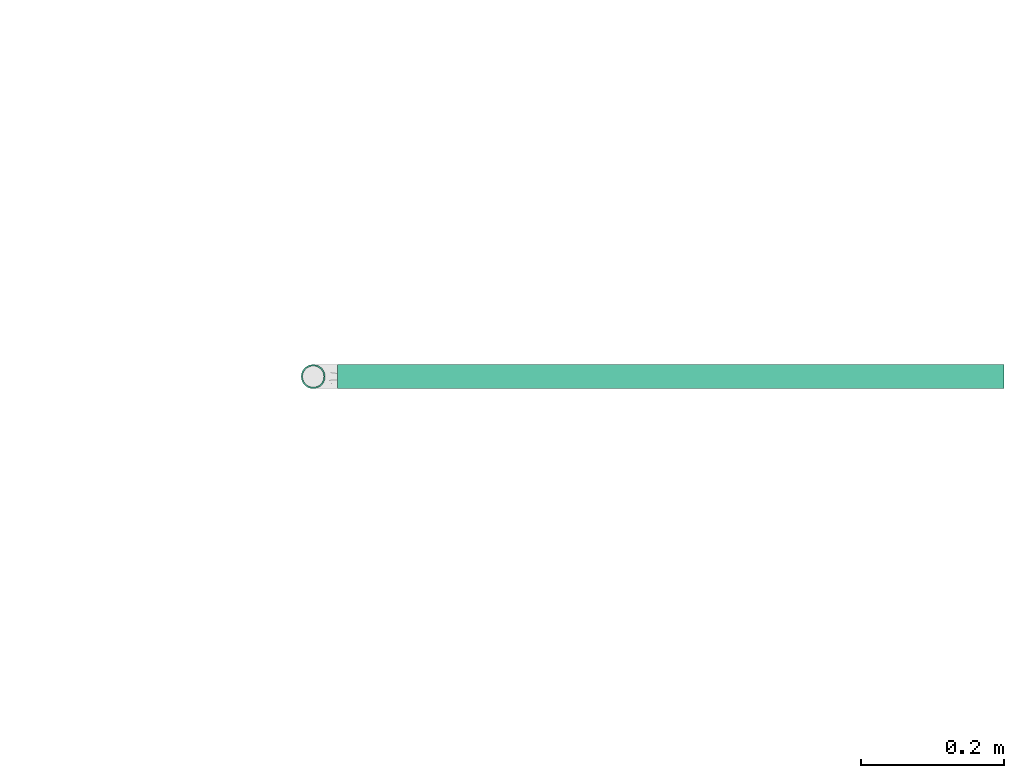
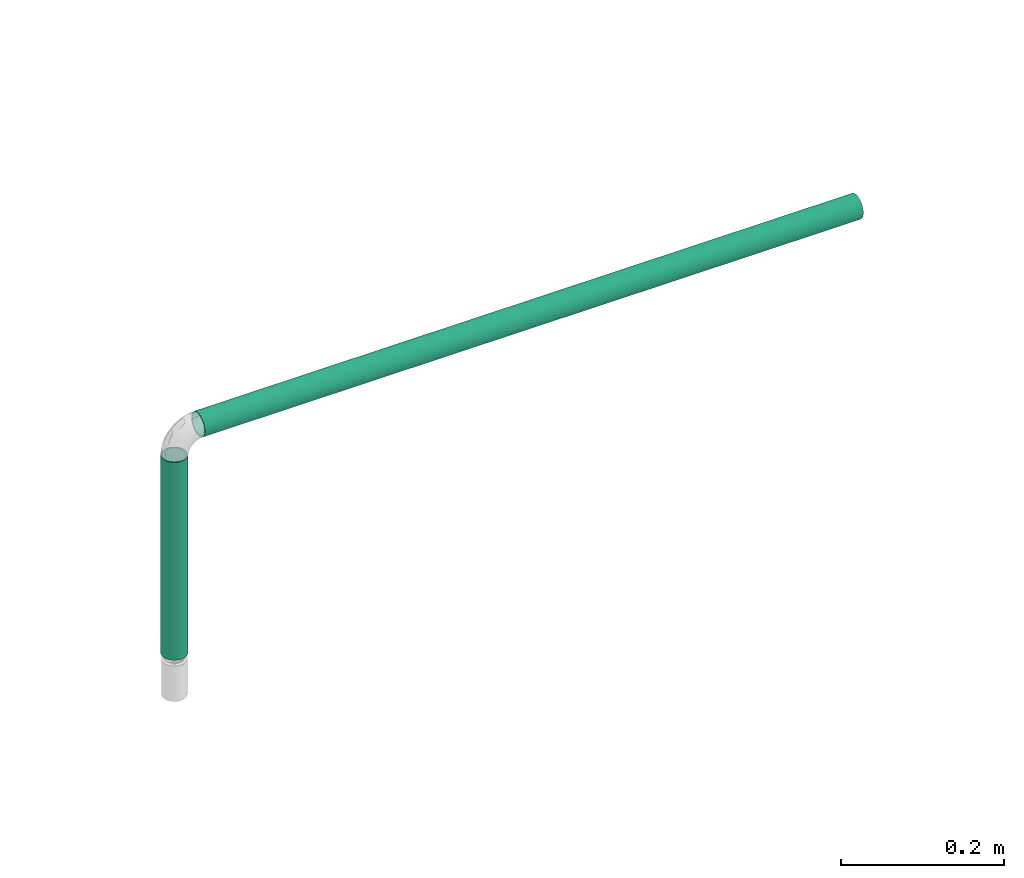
# One storey, part 34 of 95: 2 flow segments.
"""IFC2X3 building model written with IfcOpenShell, lengths in millimetres."""

from ifc_helpers import new_model, entity, si_unit, converted_unit, derived_unit, direction, frame, origin_with_axes, origin_2d_with_axis, place, context, subcontext, project, spatial, hollow_circle, extrude, source, transform, mapped, type_object, element, save


model = new_model("IFC2X3")

# Units and contexts
model_context = context("Model", 3, precision=0.01, world=frame((0.0, 4.29681676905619e-09, 0.0)), true_north=direction((4.01073788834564e-13, 1.0)))
plan_context = context("Plan", 3, precision=0.01, world=frame((0.0, 4.29681676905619e-09, 0.0)), true_north=direction((4.01073788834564e-13, 1.0)))
body_context = subcontext(model_context, "Body", "Model", "MODEL_VIEW")
ifc_project = project(units=[converted_unit("PLANEANGLEUNIT", "DEGREE", entity("IfcPositiveLengthMeasure", 0.0174532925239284), si_unit("PLANEANGLEUNIT", "RADIAN"), dimensions=[0, 0, 0, 0, 0, 0, 0]), si_unit("AREAUNIT", "SQUARE_METRE"), si_unit("LENGTHUNIT", "METRE", prefix="MILLI"), si_unit("MASSUNIT", "GRAM", prefix="KILO"), si_unit("POWERUNIT", "WATT"), si_unit("PRESSUREUNIT", "PASCAL"), si_unit("FORCEUNIT", "NEWTON", prefix="KILO"), si_unit("ELECTRICVOLTAGEUNIT", "VOLT"), si_unit("ELECTRICCURRENTUNIT", "AMPERE"), si_unit("THERMODYNAMICTEMPERATUREUNIT", "DEGREE_CELSIUS"), si_unit("TIMEUNIT", "SECOND"), si_unit("VOLUMEUNIT", "CUBIC_METRE"), derived_unit("LINEARVELOCITYUNIT", [(si_unit("LENGTHUNIT", "METRE"), 1), (si_unit("TIMEUNIT", "SECOND"), -1)]), derived_unit("VOLUMETRICFLOWRATEUNIT", [(si_unit("VOLUMEUNIT", "CUBIC_METRE"), 1), (si_unit("TIMEUNIT", "SECOND"), -1)]), derived_unit("THERMALTRANSMITTANCEUNIT", [(si_unit("POWERUNIT", "WATT"), 1), (si_unit("THERMODYNAMICTEMPERATUREUNIT", "KELVIN"), -1), (si_unit("AREAUNIT", "SQUARE_METRE"), -1)]), derived_unit("SOUNDPRESSUREUNIT", [(si_unit("PRESSUREUNIT", "PASCAL"), 1)])], contexts=[model_context, plan_context])

# Site, building, storey
site_placement = place(None, frame((0.0, -4.29681676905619e-09, 0.0), z_axis=(0.0, 0.0, 1.0), x_axis=(1.0, 0.0, 0.0)))
site = spatial("IfcSite", under=ifc_project, at=site_placement, CompositionType="ELEMENT")
building_placement = place(site_placement, frame((0.0, 4.29681676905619e-09, 0.0), z_axis=(0.0, 0.0, 1.0), x_axis=(1.0, 0.0, 0.0)))
building = spatial("IfcBuilding", under=site, at=building_placement, Name="mc-building", CompositionType="ELEMENT")
storey_placement = place(building_placement, frame((0.0, 0.0, 210900.0), z_axis=(0.0, 0.0, 1.0), x_axis=(1.0, 0.0, 0.0)))
storey = spatial("IfcBuildingStorey", under=building, at=storey_placement, Name="Nivå F", CompositionType="ELEMENT", Elevation=210900.0)

# Flow segments
pipe_segment_type = type_object("IfcPipeSegmentType", Name="Stålrør normaltykke", PredefinedType="RIGIDSEGMENT")
shared_shape_1 = source(origin_with_axes(), body_context, "Body", "SweptSolid", [
    extrude(hollow_circle(Radius=16.9, WallThickness=2.0, at=origin_2d_with_axis()), frame((0.0, 0.0, 0.0), z_axis=(1.0, 0.0, 0.0), x_axis=(0.0, 1.0, 0.0)), (0.0, 0.0, 1.0), 296.9),
])
flow_segment_1_placement = place(storey_placement, frame((535390.32393, 457664.6514, 4066.20000000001), z_axis=(0.0, -1.0, 0.0), x_axis=(0.0, 0.0, -1.0)))
element("IfcFlowSegment", 1, at=flow_segment_1_placement, inside=storey, type_object=pipe_segment_type, Name="Stålrør normaltykke", context=body_context, shape_type="MappedRepresentation", body=[
    mapped(shared_shape_1, transform((0.0, 0.0, 0.0), scale=1.0)),
])
shared_shape_2 = source(origin_with_axes(), body_context, "Body", "SweptSolid", [
    extrude(hollow_circle(Radius=16.9, WallThickness=2.0, at=origin_2d_with_axis()), frame((0.0, 0.0, 0.0), z_axis=(1.0, 0.0, 0.0), x_axis=(0.0, 1.0, 0.0)), (0.0, 0.0, 1.0), 934.8),
])
flow_segment_2_placement = place(storey_placement, frame((535424.12393, 457664.6514, 4100.0), z_axis=(0.0, 0.0, 1.0), x_axis=(1.0, 0.0, 0.0)))
element("IfcFlowSegment", 2, at=flow_segment_2_placement, inside=storey, type_object=pipe_segment_type, Name="Stålrør normaltykke", context=body_context, shape_type="MappedRepresentation", body=[
    mapped(shared_shape_2, transform((0.0, 0.0, 0.0), scale=1.0)),
])

save(model, "model.ifc")
